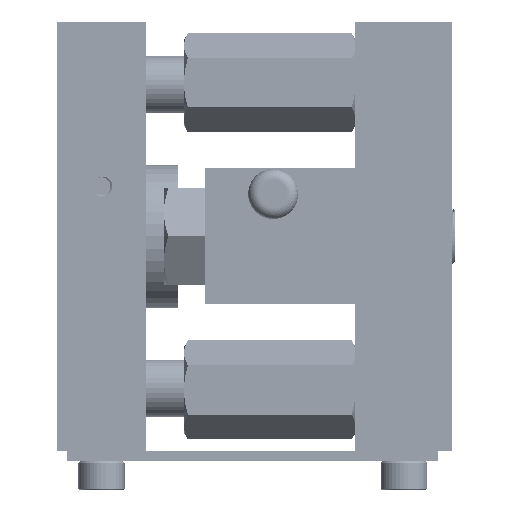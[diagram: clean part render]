
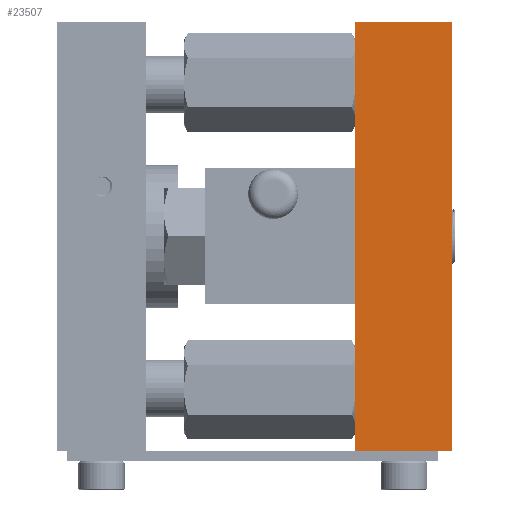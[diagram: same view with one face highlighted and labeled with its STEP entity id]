
A CAD part, left-side view. The second image highlights one B-rep face of the part: STEP entity #23507.
In plain terms, the highlighted planar face has unit normal (-1, 0, 0).
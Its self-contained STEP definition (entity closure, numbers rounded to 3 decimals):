
#464=PLANE('',#25025);
#1489=FACE_OUTER_BOUND('',#2845,.T.);
#2845=EDGE_LOOP('',(#16867,#16868,#16869,#16870));
#6161=LINE('',#42393,#7825);
#6173=LINE('',#53252,#7837);
#6174=LINE('',#53255,#7838);
#6175=LINE('',#53256,#7839);
#7825=VECTOR('',#26678,10.);
#7837=VECTOR('',#26748,10.);
#7838=VECTOR('',#26751,10.);
#7839=VECTOR('',#26752,10.);
#9755=VERTEX_POINT('',#42390);
#9756=VERTEX_POINT('',#42392);
#9770=VERTEX_POINT('',#53250);
#9771=VERTEX_POINT('',#53254);
#12398=EDGE_CURVE('',#9755,#9756,#6161,.T.);
#12460=EDGE_CURVE('',#9770,#9756,#6173,.T.);
#12461=EDGE_CURVE('',#9770,#9771,#6174,.T.);
#12462=EDGE_CURVE('',#9771,#9755,#6175,.T.);
#16867=ORIENTED_EDGE('',*,*,#12461,.F.);
#16868=ORIENTED_EDGE('',*,*,#12460,.T.);
#16869=ORIENTED_EDGE('',*,*,#12398,.F.);
#16870=ORIENTED_EDGE('',*,*,#12462,.F.);
#23507=ADVANCED_FACE('',(#1489),#464,.T.);
#25025=AXIS2_PLACEMENT_3D('',#53253,#26749,#26750);
#26678=DIRECTION('',(0.,0.,1.));
#26748=DIRECTION('',(0.,1.,0.));
#26749=DIRECTION('center_axis',(-1.,0.,0.));
#26750=DIRECTION('ref_axis',(0.,0.,1.));
#26751=DIRECTION('',(0.,0.,-1.));
#26752=DIRECTION('',(0.,1.,0.));
#42390=CARTESIAN_POINT('',(-121.5,27.,-60.));
#42392=CARTESIAN_POINT('',(-121.5,27.,60.));
#42393=CARTESIAN_POINT('',(-121.5,27.,60.));
#53250=CARTESIAN_POINT('',(-121.5,0.,60.));
#53252=CARTESIAN_POINT('',(-121.5,0.,60.));
#53253=CARTESIAN_POINT('Origin',(-121.5,0.,-60.));
#53254=CARTESIAN_POINT('',(-121.5,0.,-60.));
#53255=CARTESIAN_POINT('',(-121.5,0.,60.));
#53256=CARTESIAN_POINT('',(-121.5,0.,-60.));
